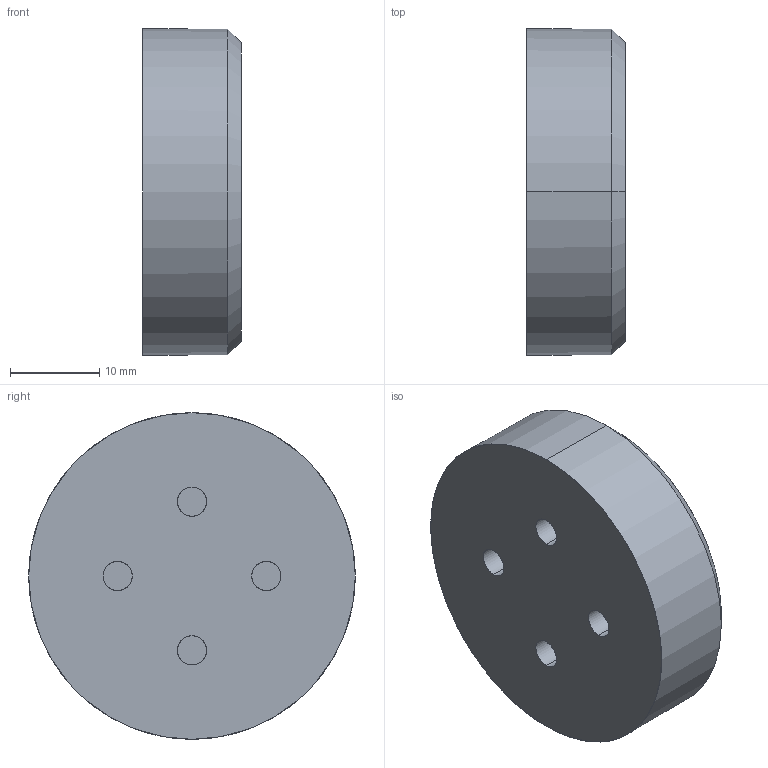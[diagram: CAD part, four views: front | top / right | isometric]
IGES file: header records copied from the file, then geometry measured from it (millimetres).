
Start section: SolidWorks IGES file using analytic representation for surfaces
Global section: file name: S:\Product Visuals\FILES FOR PUBLICATION\SOLID MODELS FOR PUBLICATION\30-fiber\igs\cap-check-plug\30l-cap-check-plug.IGS; native system: SolidWorks 2012; preprocessor: SolidWorks 2012; author: karen.bodily; date: 121121.140724; units: inch
Bounding box: 11.05 x 36.6 x 36.6 mm (x, y, z)
Surface area: 3520.2 mm2 (no closed solid volume)
Topology: 0 solids, 0 shells, 18 faces, 432 edges, 432 vertices
Faces by surface type: revolution 12, bspline 6
